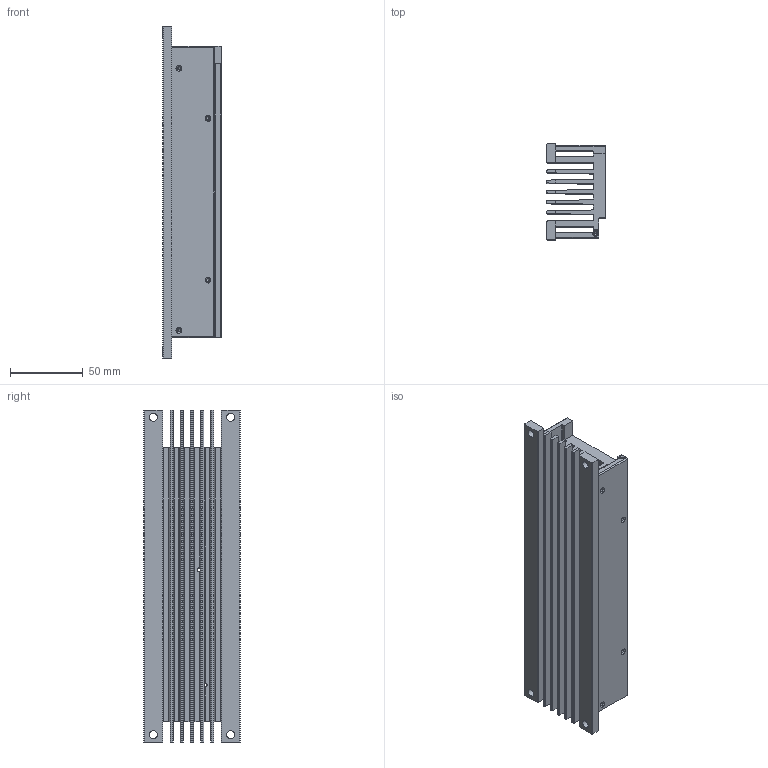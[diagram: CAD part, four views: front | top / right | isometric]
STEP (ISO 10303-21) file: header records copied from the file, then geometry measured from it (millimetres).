
FILE_DESCRIPTION (( 'STEP AP203' ), '1' );
FILE_NAME ('豜1.00.00.003-冓儰僗闉.STEP', '2009-11-11T08:18:12', ( 'User' ), ( 'Microsoft Corporation' ), 'SwSTEP 2.0', 'SolidWorks 2008', '' );
FILE_SCHEMA (( 'CONFIG_CONTROL_DESIGN' ));
Length unit declared in the file: millimetre
Products named in the file (1): 豜1.00.00.003-冓儰僗闉
Bounding box: 40 x 66 x 228 mm (x, y, z)
Volume: 278093.4 mm3; surface area: 143540.9 mm2
Topology: 1 solids, 1 shells, 222 faces, 638 edges, 395 vertices
Faces by surface type: cylinder 91, plane 78, cone 53
Entity records: 7319 total; most frequent: CARTESIAN_POINT 1393, DIRECTION 1240, ORIENTED_EDGE 1230, EDGE_CURVE 615, AXIS2_PLACEMENT_3D 430, VERTEX_POINT 395, VECTOR 380, LINE 380
